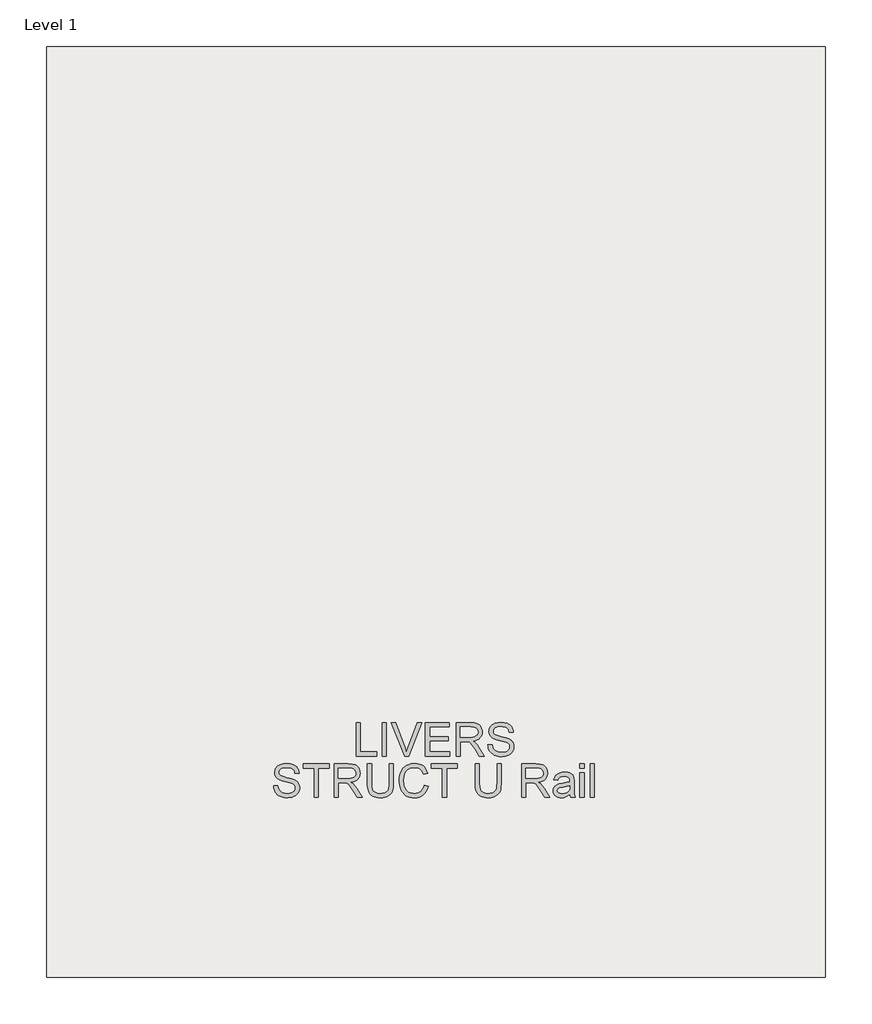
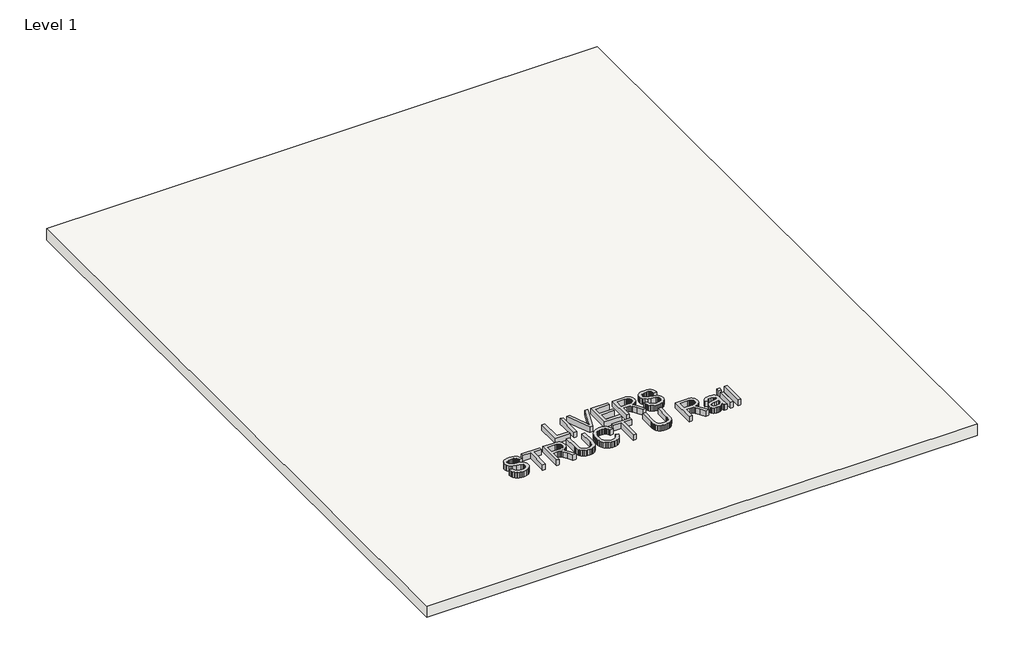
# One storey, incomplete: 1 proxy, 1 slab.
"""IFC4 building model written with IfcOpenShell, lengths in millimetres."""

import ifcopenshell
import ifcopenshell.guid

model = None  # the IFC model being written
_history = None  # IfcOwnerHistory: only IFC2X3 demands one
_inside = {}  # id of a spatial element -> (the spatial element, [elements in it])
_under = {}  # id of a project, library or spatial element -> (it, [spatial elements below it])
_declared = {}  # id of a project -> (the project, [libraries it declares])
_typed = {}  # id of a type object -> (the type object, [elements of that type])
_made_of = {}  # id of a material, layer set ... -> (it, [elements and type objects made of it])


def new_model(schema):
    """Start an empty IFC model of exactly this schema.

    Asked for "IFC4X3", IfcOpenShell would pick the latest addendum, in which some entities
    have other attributes; the version numbers below select the first issue.
    IFC2X3 requires an IfcOwnerHistory on every rooted entity: one is made here for all.
    """
    global model, _history
    if schema == "IFC4X3":
        model = ifcopenshell.file(schema_version=(4, 3, 0, 0))
    else:
        model = ifcopenshell.file(schema=schema)
    _inside.clear()
    _under.clear()
    _declared.clear()
    _typed.clear()
    _made_of.clear()
    _history = None
    if model.schema == "IFC2X3":
        org = make("IfcOrganization", Name="unknown")
        user = make(
            "IfcPersonAndOrganization",
            ThePerson=make("IfcPerson", FamilyName="unknown"),
            TheOrganization=org,
        )
        app = make(
            "IfcApplication",
            ApplicationDeveloper=org,
            Version="unknown",
            ApplicationFullName="unknown",
            ApplicationIdentifier="unknown",
        )
        _history = make(
            "IfcOwnerHistory",
            OwningUser=user,
            OwningApplication=app,
            ChangeAction="ADDED",
            CreationDate=0,
        )
    return model


def make(cls, **values):
    """One entity of the class cls with the attributes given. An attribute that is None is left unset."""
    return model.create_entity(
        cls, **{name: value for name, value in values.items() if value is not None}
    )


def rooted(cls, **values):
    """An entity with a GlobalId (a new one), such as an element, a storey or a relation."""
    return make(cls, GlobalId=ifcopenshell.guid.new(), OwnerHistory=_history, **values)


def si_unit(unit_type, name, prefix=None):
    """IfcSIUnit, for example si_unit("LENGTHUNIT", "METRE", prefix="MILLI")."""
    return make("IfcSIUnit", UnitType=unit_type, Prefix=prefix, Name=name)


def assignment(units):
    """IfcUnitAssignment: the units of a project."""
    return None if units is None else make("IfcUnitAssignment", Units=units)


def point(xyz):
    """IfcCartesianPoint."""
    return None if xyz is None else make("IfcCartesianPoint", Coordinates=xyz)


def direction(xyz):
    """IfcDirection."""
    return None if xyz is None else make("IfcDirection", DirectionRatios=xyz)


def frame(location, z_axis=None, x_axis=None):
    """IfcAxis2Placement3D, a coordinate frame: its origin and axes. An axis left out is left unset."""
    return make(
        "IfcAxis2Placement3D",
        Location=point(location),
        Axis=direction(z_axis),
        RefDirection=direction(x_axis),
    )


def origin():
    """The frame at (0, 0, 0) with its axes left unset."""
    return frame((0.0, 0.0, 0.0))


def origin_with_axes():
    """The frame at (0, 0, 0) with the z axis (0, 0, 1) and the x axis (1, 0, 0) written out."""
    return frame((0.0, 0.0, 0.0), z_axis=(0.0, 0.0, 1.0), x_axis=(1.0, 0.0, 0.0))


def place(relative_to, where):
    """IfcLocalPlacement: puts the frame where relative to a parent placement (None: the world)."""
    return make(
        "IfcLocalPlacement", PlacementRelTo=relative_to, RelativePlacement=where
    )


def context(
    kind, dimensions, precision=None, world=None, true_north=None, identifier=None
):
    """IfcGeometricRepresentationContext, for example the 3D "Model" context."""
    return make(
        "IfcGeometricRepresentationContext",
        ContextIdentifier=identifier,
        ContextType=kind,
        CoordinateSpaceDimension=dimensions,
        Precision=precision,
        WorldCoordinateSystem=world,
        TrueNorth=true_north,
    )


def project(units=None, contexts=None):
    """IfcProject with its units and contexts."""
    return rooted(
        "IfcProject",
        Name="project",
        RepresentationContexts=contexts,
        UnitsInContext=assignment(units),
    )


def spatial(cls, under=None, at=None, **own):
    """A site, building, storey or space (cls), placed at a placement, below another one or the project."""
    s = rooted(cls, ObjectPlacement=at, **own)
    if under is not None:
        _under.setdefault(under.id(), (under, []))[1].append(s)
    return s


def polyline(points):
    """IfcPolyline through the points."""
    return make("IfcPolyline", Points=[point(p) for p in points])


def outline(outer, holes=None, kind="AREA"):
    """IfcArbitraryClosedProfileDef: a profile drawn as a closed curve; with holes, ...WithVoids."""
    if holes is None:
        return make("IfcArbitraryClosedProfileDef", ProfileType=kind, OuterCurve=outer)
    return make(
        "IfcArbitraryProfileDefWithVoids",
        ProfileType=kind,
        OuterCurve=outer,
        InnerCurves=holes,
    )


def extrude(swept, where, along, depth):
    """IfcExtrudedAreaSolid: the profile swept, set in the frame where, extruded along a direction by depth."""
    return make(
        "IfcExtrudedAreaSolid",
        SweptArea=swept,
        Position=where,
        ExtrudedDirection=direction(along),
        Depth=depth,
    )


def shape(context_of_items, identifier, shape_type, items):
    """IfcShapeRepresentation: the items that make up one representation, for example the "Body"."""
    return make(
        "IfcShapeRepresentation",
        ContextOfItems=context_of_items,
        RepresentationIdentifier=identifier,
        RepresentationType=shape_type,
        Items=items,
    )


def made_of(thing, what):
    """Note that an element or type object is made of a material, layer set ...; save() writes the relation."""
    if what is not None:
        _made_of.setdefault(what.id(), (what, []))[1].append(thing)
    return thing


def element(
    cls,
    number,
    at=None,
    inside=None,
    cuts=None,
    type_object=None,
    material=None,
    context=None,
    identifier="Body",
    shape_type=None,
    held_by="IfcProductDefinitionShape",
    body=None,
    shapes=None,
    **own,
):
    """One element of the class cls, such as IfcWall. Its Tag is "e" and its number.

    at: its placement. inside: the storey or other place that contains it. cuts: it is an
    opening in that element (IfcRelVoidsElement). A single representation is given by context,
    identifier, shape_type and body (its items); several are given by shapes. held_by: the class
    of the entity that holds the representations. save() writes the other relations.
    """
    e = rooted(cls, Tag="e%d" % number, ObjectPlacement=at, **own)
    if body is not None:
        shapes = [shape(context, identifier, shape_type, body)]
    if shapes is not None:
        e.Representation = make(held_by, Representations=shapes)
    if inside is not None:
        _inside.setdefault(inside.id(), (inside, []))[1].append(e)
    if cuts is not None:
        rooted(
            "IfcRelVoidsElement", RelatingBuildingElement=cuts, RelatedOpeningElement=e
        )
    if type_object is not None:
        _typed.setdefault(type_object.id(), (type_object, []))[1].append(e)
    return made_of(e, material)


def aggregate(whole, parts):
    """IfcRelAggregates: a whole, such as a stair, and the parts it consists of."""
    return rooted("IfcRelAggregates", RelatingObject=whole, RelatedObjects=parts)


def save(model, path):
    """Write the relations noted so far, then the file.

    IfcRelAggregates (storeys below a building ...), IfcRelContainedInSpatialStructure (elements
    in a storey), IfcRelDefinesByType, IfcRelAssociatesMaterial and IfcRelDeclares: one each for
    every whole, place, type object, material and project.
    """
    for whole, parts in _under.values():
        aggregate(whole, parts)
    for where, things in _inside.values():
        rooted(
            "IfcRelContainedInSpatialStructure",
            RelatedElements=things,
            RelatingStructure=where,
        )
    for kind, things in _typed.values():
        rooted("IfcRelDefinesByType", RelatedObjects=things, RelatingType=kind)
    for what, things in _made_of.values():
        rooted("IfcRelAssociatesMaterial", RelatedObjects=things, RelatingMaterial=what)
    for by, libraries in _declared.values():
        rooted("IfcRelDeclares", RelatingContext=by, RelatedDefinitions=libraries)
    model.write(path)


model = new_model("IFC4")

# Units and contexts
model_context = context("Model", 3, world=origin())
ifc_project = project(units=[si_unit("LENGTHUNIT", "METRE", prefix="MILLI")], contexts=[model_context])

# Site, building, storey
site = spatial("IfcSite", under=ifc_project)
building = spatial("IfcBuilding", under=site)
storey = spatial("IfcBuildingStorey", under=building, Name="Level 1", Elevation=0.0)

# Proxy
placement = place(None, origin())
element("IfcBuildingElementProxy", 1, Name="24\" Arial", ObjectType="24\" Arial", at=placement, inside=storey, context=model_context, shape_type="SweptSolid", body=[
    extrude(outline(polyline([(-2846.0030129, -1812.8905385), (-2846.0030129, -1212.669), (-2770.9753206, -1212.669), (-2770.9753206, -1737.8628462), (-2470.8645514, -1737.8628462), (-2470.8645514, -1812.8905385), (-2846.0030129, -1812.8905385)])), origin_with_axes(), (0.0, 0.0, 1.0), 152.4),
    extrude(outline(polyline([(-2377.079936, -1812.8905385), (-2377.079936, -1212.669), (-2302.0522437, -1212.669), (-2302.0522437, -1812.8905385), (-2377.079936, -1812.8905385)])), origin_with_axes(), (0.0, 0.0, 1.0), 152.4),
    extrude(outline(polyline([(-1974.6853206, -1812.8905385), (-2213.5430129, -1212.669), (-2133.239936, -1212.669), (-1973.3664745, -1645.104), (-1940.9814745, -1742.5520769), (-1909.0360898, -1645.104), (-1748.7230129, -1212.669), (-1668.419936, -1212.669), (-1897.1664745, -1812.8905385), (-1974.6853206, -1812.8905385)])), origin_with_axes(), (0.0, 0.0, 1.0), 152.4),
    extrude(outline(polyline([(-1598.6676283, -1812.8905385), (-1598.6676283, -1212.669), (-1167.2583975, -1212.669), (-1167.2583975, -1287.6966923), (-1523.639936, -1287.6966923), (-1523.639936, -1465.8874616), (-1186.0153206, -1465.8874616), (-1186.0153206, -1540.9151539), (-1523.639936, -1540.9151539), (-1523.639936, -1737.8628462), (-1157.879936, -1737.8628462), (-1157.879936, -1812.8905385), (-1598.6676283, -1812.8905385)])), origin_with_axes(), (0.0, 0.0, 1.0), 152.4),
    extrude(outline(polyline([(-1045.3383975, -1812.8905385), (-1045.3383975, -1212.669), (-786.6980129, -1212.669), (-717.1838302, -1216.717125), (-666.6097437, -1228.8615), (-647.0926523, -1238.5147212), (-629.6454168, -1251.2818846), (-614.268037, -1267.1629904), (-600.9605129, -1286.1580385), (-590.2219913, -1307.245839), (-582.5516187, -1329.4052019), (-577.9493951, -1352.6361274), (-576.4153206, -1376.9386154), (-578.9568471, -1407.7666442), (-586.5814264, -1436.0668846), (-599.2890586, -1461.8393366), (-617.0797437, -1485.084), (-640.182448, -1505.0590241), (-668.8261379, -1521.0225577), (-703.0108134, -1532.974601), (-742.7364745, -1540.9151539), (-718.0081091, -1557.0710192), (-700.0937821, -1573.0070769), (-669.3573398, -1609.4585192), (-639.2803206, -1650.2328462), (-539.1945514, -1812.8905385), (-626.384936, -1812.8905385), (-704.489936, -1688.4793846), (-760.9072437, -1606.1247692), (-781.880561, -1582.1107789), (-800.5458975, -1567.2188077), (-836.2280129, -1552.9313077), (-879.749936, -1550.2936154), (-970.3107052, -1550.2936154), (-970.3107052, -1812.8905385), (-1045.3383975, -1812.8905385)]), holes=[polyline([(-970.3107052, -1475.2659231), (-802.3776283, -1475.2659231), (-754.1481571, -1472.6099135), (-716.7258975, -1464.6418846), (-688.5538783, -1450.8306346), (-668.0751283, -1430.6449616), (-655.6010418, -1406.2279904), (-651.4430129, -1379.7228462), (-653.4258615, -1360.5354664), (-659.3744071, -1343.1248654), (-669.2886499, -1327.4910433), (-683.1685898, -1313.634), (-701.3347797, -1302.2864279), (-724.1077725, -1294.1810192), (-751.4875682, -1289.3177741), (-783.4741668, -1287.6966923), (-970.3107052, -1287.6966923), (-970.3107052, -1475.2659231)])]), origin_with_axes(), (0.0, 0.0, 1.0), 152.4),
    extrude(outline(polyline([(-473.2522437, -1606.5643846), (-398.2245514, -1606.5643846), (-389.6154168, -1648.199625), (-374.0457052, -1681.6653462), (-349.7569552, -1708.2254423), (-314.9907052, -1729.1438077), (-272.4945514, -1742.7169327), (-225.0160898, -1747.2413077), (-183.2159937, -1743.8159712), (-146.6180129, -1733.5399616), (-116.9622918, -1717.2741923), (-95.9889745, -1695.8795769), (-83.5148879, -1671.3160673), (-79.3568591, -1645.5436154), (-82.4708014, -1620.4305866), (-91.8126283, -1598.7245769), (-110.7893591, -1580.2057789), (-142.8080129, -1564.6543846), (-252.052436, -1536.0061154), (-323.7646956, -1517.0477019), (-369.6495514, -1499.0051539), (-406.9985418, -1473.7639039), (-433.4670514, -1443.174), (-449.2382533, -1407.8948654), (-454.4953206, -1368.5859231), (-452.8696596, -1346.243387), (-447.9926764, -1324.6427019), (-439.8643711, -1303.7838678), (-428.4847437, -1283.6668846), (-413.9820153, -1265.1114519), (-396.4844071, -1248.9372692), (-375.9919192, -1235.1443366), (-352.5045514, -1223.7326539), (-299.7140706, -1208.4010673), (-241.2818591, -1203.2905385), (-177.9772437, -1208.6391923), (-122.5857052, -1224.6851539), (-98.3519071, -1236.6371971), (-77.0855129, -1251.0987116), (-58.7865225, -1268.0696971), (-43.454936, -1287.5501539), (-31.2098158, -1308.9722452), (-22.1702245, -1331.7681346), (-16.336162, -1355.9378221), (-13.7076283, -1381.4813077), (-88.7353206, -1381.4813077), (-93.7542629, -1357.5405866), (-102.509936, -1336.7138077), (-115.0023398, -1319.0009712), (-131.2314745, -1304.4020769), (-151.4995754, -1292.9903942), (-176.1088783, -1284.8391923), (-205.0593831, -1279.9484712), (-238.3510898, -1278.3182308), (-272.7052004, -1279.9301539), (-302.058686, -1284.7659231), (-326.4115466, -1292.8255385), (-345.7637821, -1304.109), (-360.5092148, -1317.6729664), (-371.0416668, -1332.5740962), (-377.3611379, -1348.8123894), (-379.4676283, -1366.3878462), (-377.9747677, -1381.5087837), (-373.496186, -1395.2192885), (-366.0318831, -1407.5193606), (-355.5818591, -1418.409), (-339.1329168, -1428.7216442), (-313.2322437, -1439.1441923), (-233.0757052, -1460.319), (-150.3547437, -1480.4314039), (-100.3118591, -1497.9793846), (-57.5409456, -1525.1989039), (-41.0049961, -1541.1990721), (-27.7020514, -1558.7928462), (-17.4764144, -1577.8886394), (-10.1723879, -1598.3948654), (-4.3291668, -1643.6386154), (-6.0097797, -1667.1076659), (-11.0516187, -1689.8898173), (-19.4546836, -1711.9850697), (-31.2189745, -1733.3934231), (-46.1384216, -1753.2860192), (-64.0069552, -1770.834), (-84.8245754, -1786.0373654), (-108.5912821, -1798.8961154), (-134.6155971, -1809.1217524), (-162.2060418, -1816.4257789), (-222.0853206, -1822.269), (-260.4646596, -1820.6937116), (-295.5926764, -1815.9678462), (-327.4693711, -1808.0914039), (-356.0947437, -1797.0643846), (-381.6428086, -1782.8684712), (-404.2875802, -1765.4853462), (-424.0290586, -1744.9150096), (-440.8672437, -1721.1574616), (-454.43121, -1694.9820289), (-464.3500321, -1667.1580385), (-470.62371, -1637.6854904), (-473.2522437, -1606.5643846)])), origin_with_axes(), (0.0, 0.0, 1.0), 152.4),
    extrude(outline(polyline([(-4332.4891668, -2347.4628462), (-4257.4614745, -2347.4628462), (-4248.8523398, -2389.0980866), (-4233.2826283, -2422.5638077), (-4208.9938783, -2449.1239039), (-4174.2276283, -2470.0422692), (-4131.7314745, -2483.6153942), (-4084.2530129, -2488.1397692), (-4042.4529168, -2484.7144327), (-4005.854936, -2474.4384231), (-3976.1992148, -2458.1726539), (-3955.2258975, -2436.7780385), (-3942.751811, -2412.2145289), (-3938.5937821, -2386.4420769), (-3941.7077245, -2361.3290481), (-3951.0495514, -2339.6230385), (-3970.0262821, -2321.1042404), (-4002.044936, -2305.5528462), (-4111.2893591, -2276.9045769), (-4183.0016187, -2257.9461635), (-4228.8864745, -2239.9036154), (-4266.2354648, -2214.6623654), (-4292.7039745, -2184.0724616), (-4308.4751764, -2148.7933269), (-4313.7322437, -2109.4843846), (-4312.1065826, -2087.1418486), (-4307.2295995, -2065.5411635), (-4299.1012942, -2044.6823293), (-4287.7216668, -2024.5653462), (-4273.2189384, -2006.0099135), (-4255.7213302, -1989.8357308), (-4235.2288422, -1976.0427981), (-4211.7414745, -1964.6311154), (-4158.9509937, -1949.2995289), (-4100.5187821, -1944.189), (-4037.2141668, -1949.5376539), (-3981.8226283, -1965.5836154), (-3957.5888302, -1977.5356587), (-3936.322436, -1991.9971731), (-3918.0234456, -2008.9681587), (-3902.6918591, -2028.4486154), (-3890.4467389, -2049.8707067), (-3881.4071475, -2072.6665962), (-3875.573085, -2096.8362837), (-3872.9445514, -2122.3797692), (-3947.9722437, -2122.3797692), (-3952.991186, -2098.4390481), (-3961.7468591, -2077.6122692), (-3974.2392629, -2059.8994327), (-3990.4683975, -2045.3005385), (-4010.7364985, -2033.8888558), (-4035.3458014, -2025.7376539), (-4064.2963062, -2020.8469327), (-4097.5880129, -2019.2166923), (-4131.9421235, -2020.8286154), (-4161.2956091, -2025.6643846), (-4185.6484696, -2033.724), (-4205.0007052, -2045.0074616), (-4219.7461379, -2058.5714279), (-4230.2785898, -2073.4725577), (-4236.598061, -2089.710851), (-4238.7045514, -2107.2863077), (-4237.2116908, -2122.4072452), (-4232.7331091, -2136.11775), (-4225.2688062, -2148.4178221), (-4214.8187821, -2159.3074616), (-4198.3698398, -2169.6201058), (-4172.4691668, -2180.0426539), (-4092.3126283, -2201.2174616), (-4009.5916668, -2221.3298654), (-3959.5487821, -2238.8778462), (-3916.7778687, -2266.0973654), (-3900.2419192, -2282.0975337), (-3886.9389745, -2299.6913077), (-3876.7133374, -2318.787101), (-3869.409311, -2339.2933269), (-3863.5660898, -2384.5370769), (-3865.2467028, -2408.0061274), (-3870.2885418, -2430.7882789), (-3878.6916067, -2452.8835313), (-3890.4558975, -2474.2918846), (-3905.3753446, -2494.1844808), (-3923.2438783, -2511.7324616), (-3944.0614985, -2526.9358269), (-3967.8282052, -2539.7945769), (-3993.8525201, -2550.020214), (-4021.4429648, -2557.3242404), (-4081.3222437, -2563.1674616), (-4119.7015826, -2561.5921731), (-4154.8295995, -2556.8663077), (-4186.7062942, -2548.9898654), (-4215.3316668, -2537.9628462), (-4240.8797317, -2523.7669327), (-4263.5245033, -2506.3838077), (-4283.2659817, -2485.8134712), (-4300.1041668, -2462.0559231), (-4313.6681331, -2435.8804904), (-4323.5869552, -2408.0565), (-4329.8606331, -2378.5839519), (-4332.4891668, -2347.4628462)])), origin_with_axes(), (0.0, 0.0, 1.0), 152.4),
    extrude(outline(polyline([(-3600.9691668, -2553.789), (-3600.9691668, -2028.5951539), (-3797.9168591, -2028.5951539), (-3797.9168591, -1953.5674616), (-3328.9937821, -1953.5674616), (-3328.9937821, -2028.5951539), (-3525.9414745, -2028.5951539), (-3525.9414745, -2553.789), (-3600.9691668, -2553.789)])), origin_with_axes(), (0.0, 0.0, 1.0), 152.4),
    extrude(outline(polyline([(-3244.5876283, -2553.789), (-3244.5876283, -1953.5674616), (-2985.9472437, -1953.5674616), (-2916.433061, -1957.6155866), (-2865.8589745, -1969.7599616), (-2846.3418831, -1979.4131827), (-2828.8946475, -1992.1803462), (-2813.5172677, -2008.0614519), (-2800.2097437, -2027.0565), (-2789.4712221, -2048.1443005), (-2781.8008495, -2070.3036635), (-2777.1986259, -2093.534589), (-2775.6645514, -2117.8370769), (-2778.2060778, -2148.6651058), (-2785.8306571, -2176.9653462), (-2798.5382894, -2202.7377981), (-2816.3289745, -2225.9824616), (-2839.4316788, -2245.9574856), (-2868.0753687, -2261.9210192), (-2902.2600442, -2273.8730625), (-2941.9857052, -2281.8136154), (-2917.2573398, -2297.9694808), (-2899.3430129, -2313.9055385), (-2868.6065706, -2350.3569808), (-2838.5295514, -2391.1313077), (-2738.4437821, -2553.789), (-2825.6341668, -2553.789), (-2903.7391668, -2429.3778462), (-2960.1564745, -2347.0232308), (-2981.1297918, -2323.0092404), (-2999.7951283, -2308.1172692), (-3035.4772437, -2293.8297692), (-3078.9991668, -2291.1920769), (-3169.559936, -2291.1920769), (-3169.559936, -2553.789), (-3244.5876283, -2553.789)]), holes=[polyline([(-3169.559936, -2216.1643846), (-3001.6268591, -2216.1643846), (-2953.3973879, -2213.508375), (-2915.9751283, -2205.5403462), (-2887.8031091, -2191.7290962), (-2867.3243591, -2171.5434231), (-2854.8502725, -2147.1264519), (-2850.6922437, -2120.6213077), (-2852.6750922, -2101.4339279), (-2858.6236379, -2084.0233269), (-2868.5378807, -2068.3895048), (-2882.4178206, -2054.5324616), (-2900.5840105, -2043.1848894), (-2923.3570033, -2035.0794808), (-2950.736799, -2030.2162356), (-2982.7233975, -2028.5951539), (-3169.559936, -2028.5951539), (-3169.559936, -2216.1643846)])]), origin_with_axes(), (0.0, 0.0, 1.0), 152.4),
    extrude(outline(polyline([(-2250.4707052, -1953.5674616), (-2175.4430129, -1953.5674616), (-2175.4430129, -2299.8378462), (-2180.5352245, -2380.9285673), (-2186.9004889, -2414.4812957), (-2195.8118591, -2443.3722692), (-2208.038662, -2468.6959471), (-2224.3502245, -2491.5467885), (-2244.7465466, -2511.9247933), (-2269.2276283, -2529.8299616), (-2297.8209456, -2544.4151178), (-2330.5539745, -2554.8330866), (-2367.4267148, -2561.0838678), (-2408.4391668, -2563.1674616), (-2448.4395874, -2561.3540481), (-2484.6208495, -2555.9138077), (-2516.9829528, -2546.8467404), (-2545.5258975, -2534.1528462), (-2570.2542629, -2518.0198774), (-2591.1726283, -2498.6355866), (-2608.2809937, -2475.9999736), (-2621.5793591, -2450.1130385), (-2631.5485538, -2420.0863918), (-2638.6694071, -2385.0316442), (-2642.9419192, -2344.9487957), (-2644.3660898, -2299.8378462), (-2644.3660898, -1953.5674616), (-2569.3383975, -1953.5674616), (-2569.3383975, -2297.2001539), (-2565.6383014, -2364.6261635), (-2554.5380129, -2411.5734231), (-2545.8098158, -2428.8786995), (-2534.4256091, -2444.0866442), (-2520.3853927, -2457.1972572), (-2503.6891668, -2468.2105385), (-2463.6108975, -2483.1574616), (-2415.4730129, -2488.1397692), (-2374.1216908, -2485.6760914), (-2339.1631091, -2478.2850577), (-2310.5972677, -2465.9666683), (-2288.4241668, -2448.7209231), (-2271.8195273, -2424.4688077), (-2259.9590706, -2391.1313077), (-2252.8427966, -2348.7084231), (-2250.4707052, -2297.2001539), (-2250.4707052, -1953.5674616)])), origin_with_axes(), (0.0, 0.0, 1.0), 152.4),
    extrude(outline(polyline([(-1622.1137821, -2340.429), (-1547.0860898, -2359.7720769), (-1561.9322677, -2406.430839), (-1581.7058014, -2447.2005866), (-1606.4066908, -2482.0813197), (-1636.034936, -2511.0730385), (-1669.9219552, -2533.8643486), (-1707.3991668, -2550.1438558), (-1748.4665706, -2559.9115601), (-1793.1241668, -2563.1674616), (-1838.8762221, -2560.7037837), (-1880.1496956, -2553.31275), (-1916.9445874, -2540.9943606), (-1949.2608975, -2523.7486154), (-1977.5428206, -2501.8319567), (-2002.2345514, -2475.5008269), (-2023.3360898, -2444.755226), (-2040.847436, -2409.5951539), (-2054.5991547, -2371.5409471), (-2064.421811, -2332.1129423), (-2070.3154047, -2291.3111394), (-2072.279936, -2249.1355385), (-2070.0589624, -2203.8826298), (-2063.3960418, -2161.6154423), (-2052.291174, -2122.333976), (-2036.7443591, -2086.0382308), (-2017.1036259, -2053.3280986), (-1993.7170033, -2024.8034712), (-1966.5844913, -2000.4643486), (-1935.7060898, -1980.3107308), (-1902.1304648, -1964.5074736), (-1866.9062821, -1953.2194327), (-1830.0335418, -1946.4466082), (-1791.5122437, -1944.189), (-1748.5993711, -1947.1106106), (-1709.2492148, -1955.8754423), (-1673.4617749, -1970.4834952), (-1641.2370514, -1990.9347692), (-1613.1062461, -2016.6889039), (-1589.600561, -2047.2055385), (-1570.7199961, -2082.4846731), (-1556.4645514, -2122.5263077), (-1631.4922437, -2140.404), (-1643.3069071, -2110.8993967), (-1657.5028206, -2085.6902019), (-1674.0799841, -2064.7764159), (-1693.0383975, -2048.1580385), (-1714.4879648, -2035.4961995), (-1738.5385898, -2026.4520289), (-1765.1902725, -2021.0255265), (-1794.4430129, -2019.2166923), (-1828.1010658, -2021.2224375), (-1858.8833014, -2027.2396731), (-1886.7897196, -2037.2683991), (-1911.8203206, -2051.3086154), (-1933.6591307, -2068.728375), (-1951.9901764, -2088.8957308), (-1966.8134576, -2111.8106827), (-1978.1289745, -2137.4732308), (-1992.4714264, -2192.3885192), (-1997.2522437, -2248.989), (-1991.5921956, -2318.3016923), (-1984.5171355, -2349.4411154), (-1974.6120514, -2378.2359231), (-1961.7166668, -2404.1136995), (-1945.6707052, -2426.5020289), (-1926.4741668, -2445.4009111), (-1904.1270514, -2460.8103462), (-1879.7146596, -2472.7669688), (-1854.3222918, -2481.3074135), (-1827.949948, -2486.4316803), (-1800.5976283, -2488.1397692), (-1767.9790826, -2485.8134712), (-1737.9707533, -2478.8345769), (-1710.5726403, -2467.2030866), (-1685.7847437, -2450.919), (-1664.1932172, -2430.0555866), (-1646.3842148, -2404.6861154), (-1632.3577365, -2374.8105866), (-1622.1137821, -2340.429)])), origin_with_axes(), (0.0, 0.0, 1.0), 152.4),
    extrude(outline(polyline([(-1293.8676283, -2553.789), (-1293.8676283, -2028.5951539), (-1490.8153206, -2028.5951539), (-1490.8153206, -1953.5674616), (-1021.8922437, -1953.5674616), (-1021.8922437, -2028.5951539), (-1218.839936, -2028.5951539), (-1218.839936, -2553.789), (-1293.8676283, -2553.789)])), origin_with_axes(), (0.0, 0.0, 1.0), 152.4),
    extrude(outline(polyline([(-309.1291668, -1953.5674616), (-234.1014745, -1953.5674616), (-234.1014745, -2299.8378462), (-239.193686, -2380.9285673), (-245.5589504, -2414.4812957), (-254.4703206, -2443.3722692), (-266.6971235, -2468.6959471), (-283.008686, -2491.5467885), (-303.4050081, -2511.9247933), (-327.8860898, -2529.8299616), (-356.4794071, -2544.4151178), (-389.212436, -2554.8330866), (-426.0851764, -2561.0838678), (-467.0976283, -2563.1674616), (-507.098049, -2561.3540481), (-543.279311, -2555.9138077), (-575.6414144, -2546.8467404), (-604.1843591, -2534.1528462), (-628.9127245, -2518.0198774), (-649.8310898, -2498.6355866), (-666.9394552, -2475.9999736), (-680.2378206, -2450.1130385), (-690.2070153, -2420.0863918), (-697.3278687, -2385.0316442), (-701.6003807, -2344.9487957), (-703.0245514, -2299.8378462), (-703.0245514, -1953.5674616), (-627.9968591, -1953.5674616), (-627.9968591, -2297.2001539), (-624.2967629, -2364.6261635), (-613.1964745, -2411.5734231), (-604.4682773, -2428.8786995), (-593.0840706, -2444.0866442), (-579.0438543, -2457.1972572), (-562.3476283, -2468.2105385), (-522.2693591, -2483.1574616), (-474.1314745, -2488.1397692), (-432.7801523, -2485.6760914), (-397.8215706, -2478.2850577), (-369.2557293, -2465.9666683), (-347.0826283, -2448.7209231), (-330.4779889, -2424.4688077), (-318.6175321, -2391.1313077), (-311.5012581, -2348.7084231), (-309.1291668, -2297.2001539), (-309.1291668, -1953.5674616)])), origin_with_axes(), (0.0, 0.0, 1.0), 152.4),
    extrude(outline(polyline([(131.6585255, -2553.789), (131.6585255, -1953.5674616), (390.2989102, -1953.5674616), (459.8130929, -1957.6155866), (510.3871794, -1969.7599616), (529.9042707, -1979.4131827), (547.3515063, -1992.1803462), (562.7288861, -2008.0614519), (576.0364102, -2027.0565), (586.7749318, -2048.1443005), (594.4453044, -2070.3036635), (599.0475279, -2093.534589), (600.5816025, -2117.8370769), (598.040076, -2148.6651058), (590.4154967, -2176.9653462), (577.7078645, -2202.7377981), (559.9171794, -2225.9824616), (536.8144751, -2245.9574856), (508.1707852, -2261.9210192), (473.9861097, -2273.8730625), (434.2604486, -2281.8136154), (458.988814, -2297.9694808), (476.9031409, -2313.9055385), (507.6395832, -2350.3569808), (537.7166025, -2391.1313077), (637.8023717, -2553.789), (550.6119871, -2553.789), (472.5069871, -2429.3778462), (416.0896794, -2347.0232308), (395.1163621, -2323.0092404), (376.4510255, -2308.1172692), (340.7689102, -2293.8297692), (297.2469871, -2291.1920769), (206.6862179, -2291.1920769), (206.6862179, -2553.789), (131.6585255, -2553.789)]), holes=[polyline([(206.6862179, -2216.1643846), (374.6192948, -2216.1643846), (422.8487659, -2213.508375), (460.2710255, -2205.5403462), (488.4430448, -2191.7290962), (508.9217948, -2171.5434231), (521.3958813, -2147.1264519), (525.5539102, -2120.6213077), (523.5710616, -2101.4339279), (517.6225159, -2084.0233269), (507.7082731, -2068.3895048), (493.8283332, -2054.5324616), (475.6621433, -2043.1848894), (452.8891505, -2035.0794808), (425.5093549, -2030.2162356), (393.5227563, -2028.5951539), (206.6862179, -2028.5951539), (206.6862179, -2216.1643846)])]), origin_with_axes(), (0.0, 0.0, 1.0), 152.4),
    extrude(outline(polyline([(1003.8554486, -2497.5182308), (968.0084775, -2528.2546731), (931.0991025, -2548.3670769), (892.2847275, -2559.4673654), (850.7227563, -2563.1674616), (817.3165664, -2560.9419087), (788.0226121, -2554.26525), (762.8408933, -2543.1374856), (741.7714102, -2527.5586154), (725.1347154, -2508.5177741), (713.2513621, -2487.0040962), (706.1213501, -2463.0175817), (703.7446794, -2436.5582308), (707.3348717, -2405.4554423), (718.1054486, -2377.2101539), (734.7192467, -2353.0313077), (755.8391025, -2334.1278462), (780.6590544, -2319.8403462), (808.3731409, -2309.5093846), (873.2896794, -2298.2259231), (950.002564, -2286.3563077), (1003.4158332, -2272.4351539), (1003.8554486, -2255.7297692), (998.6899679, -2222.2457308), (992.2331169, -2209.8449135), (983.1935255, -2200.3382308), (967.5688621, -2190.8498654), (948.5371794, -2184.0724616), (900.2527563, -2178.6505385), (855.5585255, -2182.2590481), (824.3458332, -2193.0845769), (803.0611217, -2213.1053942), (788.1508332, -2244.2997692), (713.1231409, -2234.9213077), (726.1467467, -2193.8905385), (745.5814102, -2161.6520769), (773.2405448, -2136.9969808), (810.937564, -2118.7163077), (857.0422275, -2107.3962116), (909.9242948, -2103.6228462), (960.6449198, -2106.9565962), (1000.8514102, -2116.9578462), (1031.1665544, -2131.9963558), (1052.2131409, -2150.4418846), (1066.1709294, -2173.2469327), (1075.2196794, -2201.364), (1078.8831409, -2267.0132308), (1078.8831409, -2360.3582308), (1082.6931409, -2490.7041923), (1088.3348717, -2522.9243366), (1097.640064, -2553.789), (1022.6123717, -2553.789), (1010.5962179, -2527.7051539), (1003.8554486, -2497.5182308)]), holes=[polyline([(1003.8554486, -2347.4628462), (953.4462179, -2359.95525), (882.8146794, -2370.4693846), (818.2644871, -2382.6320769), (801.4675159, -2390.9481346), (789.030064, -2402.4147692), (781.3367948, -2416.15275), (778.7723717, -2431.2828462), (784.3591505, -2453.5933269), (801.1194871, -2471.874), (828.6870352, -2484.0733269), (866.6954486, -2488.1397692), (906.9935255, -2483.6520289), (942.6023717, -2470.1888077), (971.4704486, -2450.3511635), (991.5462179, -2426.7401539), (1000.4484294, -2402.4147692), (1003.4158332, -2368.7109231), (1003.8554486, -2347.4628462)])]), origin_with_axes(), (0.0, 0.0, 1.0), 152.4),
    extrude(outline(polyline([(1182.0462179, -2553.789), (1182.0462179, -2113.0013077), (1257.0739102, -2113.0013077), (1257.0739102, -2553.789), (1182.0462179, -2553.789)])), origin_with_axes(), (0.0, 0.0, 1.0), 152.4),
    extrude(outline(polyline([(1182.0462179, -2028.5951539), (1182.0462179, -1953.5674616), (1257.0739102, -1953.5674616), (1257.0739102, -2028.5951539), (1182.0462179, -2028.5951539)])), origin_with_axes(), (0.0, 0.0, 1.0), 152.4),
    extrude(outline(polyline([(1369.6154486, -2553.789), (1369.6154486, -1953.5674616), (1444.6431409, -1953.5674616), (1444.6431409, -2553.789), (1369.6154486, -2553.789)])), origin_with_axes(), (0.0, 0.0, 1.0), 152.4),
])

# Slab
element("IfcSlab", 2, ObjectType="Generic - 12\"", at=placement, inside=storey, context=model_context, shape_type="SweptSolid", body=[
    extrude(outline(polyline([(5599.1968218, 10964.8849988), (5599.1968218, -5799.1150012), (-8421.6031782, -5799.1150012), (-8421.6031782, 10964.8849988), (5599.1968218, 10964.8849988)])), frame((0.0, 0.0, -304.8), z_axis=(0.0, 0.0, 1.0), x_axis=(1.0, 0.0, 0.0)), (0.0, 0.0, 1.0), 304.8),
])

save(model, "model.ifc")
